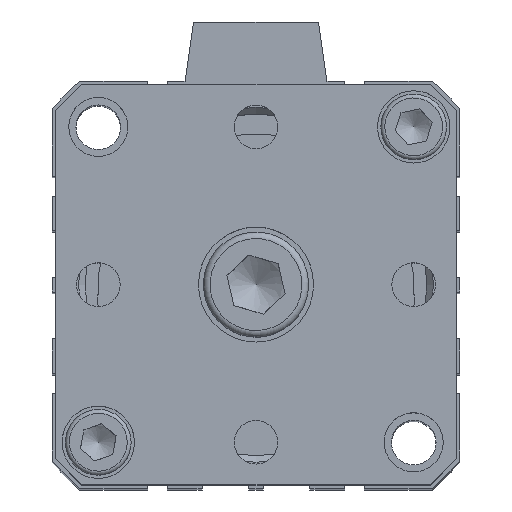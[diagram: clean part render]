
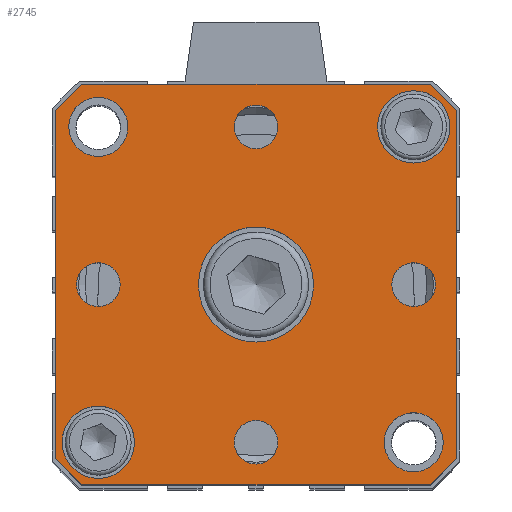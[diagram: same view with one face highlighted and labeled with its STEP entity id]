
A CAD part, top view. The second image highlights one B-rep face of the part: STEP entity #2745.
In plain terms, the highlighted planar face has unit normal (0, 0, 1).
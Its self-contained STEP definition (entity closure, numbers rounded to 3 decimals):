
#365=CARTESIAN_POINT('',(-37.557,28.294,151.6));
#366=VERTEX_POINT('',#365);
#367=CARTESIAN_POINT('',(-33.557,32.294,151.6));
#368=VERTEX_POINT('',#367);
#369=CARTESIAN_POINT('',(-37.557,28.294,151.6));
#370=DIRECTION('',(0.707,0.707,0.0));
#371=VECTOR('',#370,5.657);
#372=LINE('',#369,#371);
#373=EDGE_CURVE('',#366,#368,#372,.T.);
#417=CARTESIAN_POINT('',(19.443,32.294,151.6));
#418=VERTEX_POINT('',#417);
#419=CARTESIAN_POINT('',(-33.557,32.294,151.6));
#420=DIRECTION('',(1.0,0.0,0.0));
#421=VECTOR('',#420,53.);
#422=LINE('',#419,#421);
#423=EDGE_CURVE('',#368,#418,#422,.T.);
#440=CARTESIAN_POINT('',(23.443,28.294,151.6));
#441=VERTEX_POINT('',#440);
#442=CARTESIAN_POINT('',(19.443,32.294,151.6));
#443=DIRECTION('',(0.707,-0.707,0.0));
#444=VECTOR('',#443,5.657);
#445=LINE('',#442,#444);
#446=EDGE_CURVE('',#418,#441,#445,.T.);
#464=CARTESIAN_POINT('',(23.443,-24.706,151.6));
#465=VERTEX_POINT('',#464);
#466=CARTESIAN_POINT('',(19.443,-28.706,151.6));
#467=VERTEX_POINT('',#466);
#468=CARTESIAN_POINT('',(23.443,-24.706,151.6));
#469=DIRECTION('',(-0.707,-0.707,0.0));
#470=VECTOR('',#469,5.657);
#471=LINE('',#468,#470);
#472=EDGE_CURVE('',#465,#467,#471,.T.);
#496=CARTESIAN_POINT('',(-33.557,-28.706,151.6));
#497=VERTEX_POINT('',#496);
#498=CARTESIAN_POINT('',(19.443,-28.706,151.6));
#499=DIRECTION('',(-1.0,0.0,0.0));
#500=VECTOR('',#499,53.);
#501=LINE('',#498,#500);
#502=EDGE_CURVE('',#467,#497,#501,.T.);
#519=CARTESIAN_POINT('',(-37.557,-24.706,151.6));
#520=VERTEX_POINT('',#519);
#521=CARTESIAN_POINT('',(-33.557,-28.706,151.6));
#522=DIRECTION('',(-0.707,0.707,0.0));
#523=VECTOR('',#522,5.657);
#524=LINE('',#521,#523);
#525=EDGE_CURVE('',#497,#520,#524,.T.);
#592=CARTESIAN_POINT('',(1.693,1.794,151.6));
#593=VERTEX_POINT('',#592);
#594=CARTESIAN_POINT('',(-7.057,1.794,151.6));
#595=DIRECTION('',(0.0,0.0,-1.0));
#596=DIRECTION('',(1.0,0.0,0.0));
#597=AXIS2_PLACEMENT_3D('',#594,#595,#596);
#598=CIRCLE('',#597,8.75);
#599=EDGE_CURVE('',#593,#593,#598,.T.);
#711=CARTESIAN_POINT('',(-25.557,-22.206,151.6));
#712=VERTEX_POINT('',#711);
#713=CARTESIAN_POINT('',(-31.057,-22.206,151.6));
#714=DIRECTION('',(0.0,0.0,-1.0));
#715=DIRECTION('',(1.0,0.0,0.0));
#716=AXIS2_PLACEMENT_3D('',#713,#714,#715);
#717=CIRCLE('',#716,5.5);
#718=EDGE_CURVE('',#712,#712,#717,.T.);
#813=CARTESIAN_POINT('',(22.443,25.794,151.6));
#814=VERTEX_POINT('',#813);
#815=CARTESIAN_POINT('',(16.943,25.794,151.6));
#816=DIRECTION('',(0.0,0.0,-1.0));
#817=DIRECTION('',(1.0,0.0,0.0));
#818=AXIS2_PLACEMENT_3D('',#815,#816,#817);
#819=CIRCLE('',#818,5.5);
#820=EDGE_CURVE('',#814,#814,#819,.T.);
#890=CARTESIAN_POINT('',(20.266,1.794,151.6));
#891=VERTEX_POINT('',#890);
#892=CARTESIAN_POINT('',(16.943,1.794,151.6));
#893=DIRECTION('',(0.0,0.0,-1.0));
#894=DIRECTION('',(1.0,0.0,0.0));
#895=AXIS2_PLACEMENT_3D('',#892,#893,#894);
#896=CIRCLE('',#895,3.324);
#897=EDGE_CURVE('',#891,#891,#896,.T.);
#931=CARTESIAN_POINT('',(-3.734,-22.206,151.6));
#932=VERTEX_POINT('',#931);
#933=CARTESIAN_POINT('',(-7.057,-22.206,151.6));
#934=DIRECTION('',(0.0,0.0,-1.0));
#935=DIRECTION('',(1.0,0.0,0.0));
#936=AXIS2_PLACEMENT_3D('',#933,#934,#935);
#937=CIRCLE('',#936,3.324);
#938=EDGE_CURVE('',#932,#932,#937,.T.);
#972=CARTESIAN_POINT('',(-27.734,1.794,151.6));
#973=VERTEX_POINT('',#972);
#974=CARTESIAN_POINT('',(-31.057,1.794,151.6));
#975=DIRECTION('',(0.0,0.0,-1.0));
#976=DIRECTION('',(1.0,0.0,0.0));
#977=AXIS2_PLACEMENT_3D('',#974,#975,#976);
#978=CIRCLE('',#977,3.324);
#979=EDGE_CURVE('',#973,#973,#978,.T.);
#1013=CARTESIAN_POINT('',(-3.734,25.794,151.6));
#1014=VERTEX_POINT('',#1013);
#1015=CARTESIAN_POINT('',(-7.057,25.794,151.6));
#1016=DIRECTION('',(0.0,0.0,-1.0));
#1017=DIRECTION('',(1.0,0.0,0.0));
#1018=AXIS2_PLACEMENT_3D('',#1015,#1016,#1017);
#1019=CIRCLE('',#1018,3.324);
#1020=EDGE_CURVE('',#1014,#1014,#1019,.T.);
#2634=CARTESIAN_POINT('',(21.443,-22.206,151.6));
#2635=VERTEX_POINT('',#2634);
#2636=CARTESIAN_POINT('',(16.943,-22.206,151.6));
#2637=DIRECTION('',(0.0,0.0,-1.0));
#2638=DIRECTION('',(-1.0,0.0,0.0));
#2639=AXIS2_PLACEMENT_3D('',#2636,#2637,#2638);
#2640=CIRCLE('',#2639,4.5);
#2641=EDGE_CURVE('',#2635,#2635,#2640,.T.);
#2654=CARTESIAN_POINT('',(-26.557,25.794,151.6));
#2655=VERTEX_POINT('',#2654);
#2656=CARTESIAN_POINT('',(-31.057,25.794,151.6));
#2657=DIRECTION('',(0.0,0.0,-1.0));
#2658=DIRECTION('',(-1.0,0.0,0.0));
#2659=AXIS2_PLACEMENT_3D('',#2656,#2657,#2658);
#2660=CIRCLE('',#2659,4.5);
#2661=EDGE_CURVE('',#2655,#2655,#2660,.T.);
#2675=CARTESIAN_POINT('',(23.443,28.294,151.6));
#2676=DIRECTION('',(0.0,-1.0,0.0));
#2677=VECTOR('',#2676,53.);
#2678=LINE('',#2675,#2677);
#2679=EDGE_CURVE('',#441,#465,#2678,.T.);
#2694=CARTESIAN_POINT('',(-37.557,-24.706,151.6));
#2695=DIRECTION('',(0.0,1.0,0.0));
#2696=VECTOR('',#2695,53.);
#2697=LINE('',#2694,#2696);
#2698=EDGE_CURVE('',#520,#366,#2697,.T.);
#2703=CARTESIAN_POINT('',(-7.057,1.794,151.6));
#2704=DIRECTION('',(0.0,0.0,1.0));
#2705=DIRECTION('',(1.0,0.0,0.0));
#2706=AXIS2_PLACEMENT_3D('',#2703,#2704,#2705);
#2707=PLANE('',#2706);
#2708=ORIENTED_EDGE('',*,*,#373,.F.);
#2709=ORIENTED_EDGE('',*,*,#2698,.F.);
#2710=ORIENTED_EDGE('',*,*,#525,.F.);
#2711=ORIENTED_EDGE('',*,*,#502,.F.);
#2712=ORIENTED_EDGE('',*,*,#472,.F.);
#2713=ORIENTED_EDGE('',*,*,#2679,.F.);
#2714=ORIENTED_EDGE('',*,*,#446,.F.);
#2715=ORIENTED_EDGE('',*,*,#423,.F.);
#2716=EDGE_LOOP('',(#2708,#2709,#2710,#2711,#2712,#2713,#2714,#2715));
#2717=FACE_OUTER_BOUND('',#2716,.T.);
#2718=ORIENTED_EDGE('',*,*,#599,.T.);
#2719=EDGE_LOOP('',(#2718));
#2720=FACE_BOUND('',#2719,.T.);
#2721=ORIENTED_EDGE('',*,*,#718,.T.);
#2722=EDGE_LOOP('',(#2721));
#2723=FACE_BOUND('',#2722,.T.);
#2724=ORIENTED_EDGE('',*,*,#820,.T.);
#2725=EDGE_LOOP('',(#2724));
#2726=FACE_BOUND('',#2725,.T.);
#2727=ORIENTED_EDGE('',*,*,#897,.T.);
#2728=EDGE_LOOP('',(#2727));
#2729=FACE_BOUND('',#2728,.T.);
#2730=ORIENTED_EDGE('',*,*,#938,.T.);
#2731=EDGE_LOOP('',(#2730));
#2732=FACE_BOUND('',#2731,.T.);
#2733=ORIENTED_EDGE('',*,*,#979,.T.);
#2734=EDGE_LOOP('',(#2733));
#2735=FACE_BOUND('',#2734,.T.);
#2736=ORIENTED_EDGE('',*,*,#1020,.T.);
#2737=EDGE_LOOP('',(#2736));
#2738=FACE_BOUND('',#2737,.T.);
#2739=ORIENTED_EDGE('',*,*,#2641,.T.);
#2740=EDGE_LOOP('',(#2739));
#2741=FACE_BOUND('',#2740,.T.);
#2742=ORIENTED_EDGE('',*,*,#2661,.T.);
#2743=EDGE_LOOP('',(#2742));
#2744=FACE_BOUND('',#2743,.T.);
#2745=ADVANCED_FACE('',(#2717,#2720,#2723,#2726,#2729,#2732,#2735,#2738,#2741,#2744),#2707,.T.);
